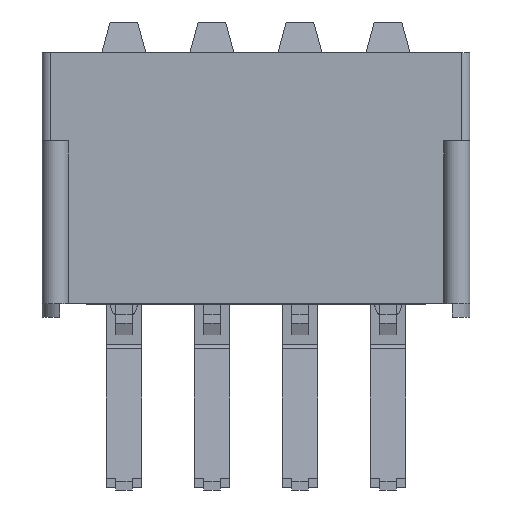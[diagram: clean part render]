
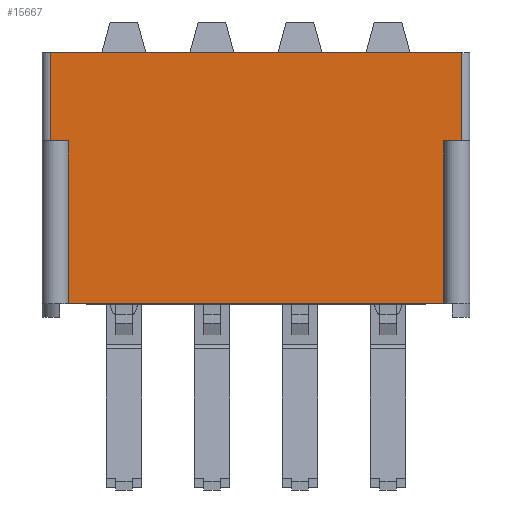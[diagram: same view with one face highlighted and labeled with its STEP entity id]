
A CAD part, front view. The second image highlights one B-rep face of the part: STEP entity #15667.
In plain terms, the highlighted planar face has unit normal (0, -1, 0).
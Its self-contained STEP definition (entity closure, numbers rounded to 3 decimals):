
#113 = LINE ( 'NONE', #16244, #4774 ) ;
#345 = DIRECTION ( 'NONE',  ( 0., -1., 0. ) ) ;
#518 = VERTEX_POINT ( 'NONE', #2554 ) ;
#971 = EDGE_CURVE ( 'NONE', #15906, #2961, #11766, .T. ) ;
#999 = VERTEX_POINT ( 'NONE', #9782 ) ;
#1476 = DIRECTION ( 'NONE',  ( -1., 0., 0. ) ) ;
#1670 = VERTEX_POINT ( 'NONE', #15543 ) ;
#2187 = VECTOR ( 'NONE', #1476, 1000. ) ;
#2298 = CARTESIAN_POINT ( 'NONE',  ( 0.25, -9.652, -7.239 ) ) ;
#2512 = EDGE_CURVE ( 'NONE', #1670, #6260, #20597, .T. ) ;
#2554 = CARTESIAN_POINT ( 'NONE',  ( 11.582, -9.652, -7.239 ) ) ;
#2642 = CARTESIAN_POINT ( 'NONE',  ( 11.582, -9.652, -2.54 ) ) ;
#2961 = VERTEX_POINT ( 'NONE', #3895 ) ;
#3054 = VECTOR ( 'NONE', #6912, 1000. ) ;
#3159 = ORIENTED_EDGE ( 'NONE', *, *, #11880, .F. ) ;
#3210 = DIRECTION ( 'NONE',  ( 0., 0., 1. ) ) ;
#3473 = FACE_OUTER_BOUND ( 'NONE', #14751, .T. ) ;
#3895 = CARTESIAN_POINT ( 'NONE',  ( 0.25, -9.652, 0. ) ) ;
#4090 = CARTESIAN_POINT ( 'NONE',  ( 12.094, -9.652, -2.54 ) ) ;
#4774 = VECTOR ( 'NONE', #12907, 1000. ) ;
#4796 = LINE ( 'NONE', #6453, #19778 ) ;
#4806 = VERTEX_POINT ( 'NONE', #4090 ) ;
#5179 = ORIENTED_EDGE ( 'NONE', *, *, #971, .F. ) ;
#6260 = VERTEX_POINT ( 'NONE', #18302 ) ;
#6453 = CARTESIAN_POINT ( 'NONE',  ( 0.25, -9.652, -2.54 ) ) ;
#6912 = DIRECTION ( 'NONE',  ( 0., 0., -1. ) ) ;
#7643 = ORIENTED_EDGE ( 'NONE', *, *, #2512, .T. ) ;
#7827 = CARTESIAN_POINT ( 'NONE',  ( 0.25, -9.652, -2.54 ) ) ;
#7863 = EDGE_CURVE ( 'NONE', #10005, #4806, #4796, .T. ) ;
#8209 = LINE ( 'NONE', #17715, #2187 ) ;
#8339 = CARTESIAN_POINT ( 'NONE',  ( 0.25, -9.652, -7.239 ) ) ;
#8634 = DIRECTION ( 'NONE',  ( 0., 0., 1. ) ) ;
#9143 = VECTOR ( 'NONE', #3210, 1000. ) ;
#9661 = ORIENTED_EDGE ( 'NONE', *, *, #17075, .T. ) ;
#9710 = DIRECTION ( 'NONE',  ( 1., 0., 0. ) ) ;
#9782 = CARTESIAN_POINT ( 'NONE',  ( 12.094, -9.652, 0. ) ) ;
#9826 = EDGE_CURVE ( 'NONE', #10005, #518, #13371, .T. ) ;
#10005 = VERTEX_POINT ( 'NONE', #2642 ) ;
#10029 = CARTESIAN_POINT ( 'NONE',  ( 11.582, -9.652, -2.54 ) ) ;
#11144 = DIRECTION ( 'NONE',  ( 1., 0., 0. ) ) ;
#11243 = ORIENTED_EDGE ( 'NONE', *, *, #14660, .T. ) ;
#11766 = LINE ( 'NONE', #2298, #16773 ) ;
#11880 = EDGE_CURVE ( 'NONE', #2961, #999, #113, .T. ) ;
#12573 = VECTOR ( 'NONE', #15696, 1000. ) ;
#12739 = LINE ( 'NONE', #8339, #16992 ) ;
#12907 = DIRECTION ( 'NONE',  ( 1., 0., 0. ) ) ;
#13166 = ORIENTED_EDGE ( 'NONE', *, *, #16699, .F. ) ;
#13371 = LINE ( 'NONE', #10029, #3054 ) ;
#14660 = EDGE_CURVE ( 'NONE', #6260, #518, #12739, .T. ) ;
#14751 = EDGE_LOOP ( 'NONE', ( #7643, #11243, #19643, #19127, #9661, #3159, #5179, #13166 ) ) ;
#15543 = CARTESIAN_POINT ( 'NONE',  ( 0.762, -9.652, -2.54 ) ) ;
#15667 = ADVANCED_FACE ( 'NONE', ( #3473 ), #15971, .T. ) ;
#15696 = DIRECTION ( 'NONE',  ( 0., 0., -1. ) ) ;
#15906 = VERTEX_POINT ( 'NONE', #7827 ) ;
#15971 = PLANE ( 'NONE',  #18987 ) ;
#16244 = CARTESIAN_POINT ( 'NONE',  ( 0.25, -9.652, 0. ) ) ;
#16699 = EDGE_CURVE ( 'NONE', #1670, #15906, #8209, .T. ) ;
#16773 = VECTOR ( 'NONE', #8634, 1000. ) ;
#16992 = VECTOR ( 'NONE', #9710, 1000. ) ;
#17075 = EDGE_CURVE ( 'NONE', #4806, #999, #17590, .T. ) ;
#17590 = LINE ( 'NONE', #18863, #9143 ) ;
#17715 = CARTESIAN_POINT ( 'NONE',  ( 0.25, -9.652, -2.54 ) ) ;
#17857 = DIRECTION ( 'NONE',  ( 0., 0., -1. ) ) ;
#17950 = CARTESIAN_POINT ( 'NONE',  ( 0.25, -9.652, -7.239 ) ) ;
#18302 = CARTESIAN_POINT ( 'NONE',  ( 0.762, -9.652, -7.239 ) ) ;
#18863 = CARTESIAN_POINT ( 'NONE',  ( 12.094, -9.652, -7.239 ) ) ;
#18987 = AXIS2_PLACEMENT_3D ( 'NONE', #17950, #345, #17857 ) ;
#19127 = ORIENTED_EDGE ( 'NONE', *, *, #7863, .T. ) ;
#19643 = ORIENTED_EDGE ( 'NONE', *, *, #9826, .F. ) ;
#19778 = VECTOR ( 'NONE', #11144, 1000. ) ;
#20287 = CARTESIAN_POINT ( 'NONE',  ( 0.762, -9.652, -2.54 ) ) ;
#20597 = LINE ( 'NONE', #20287, #12573 ) ;
